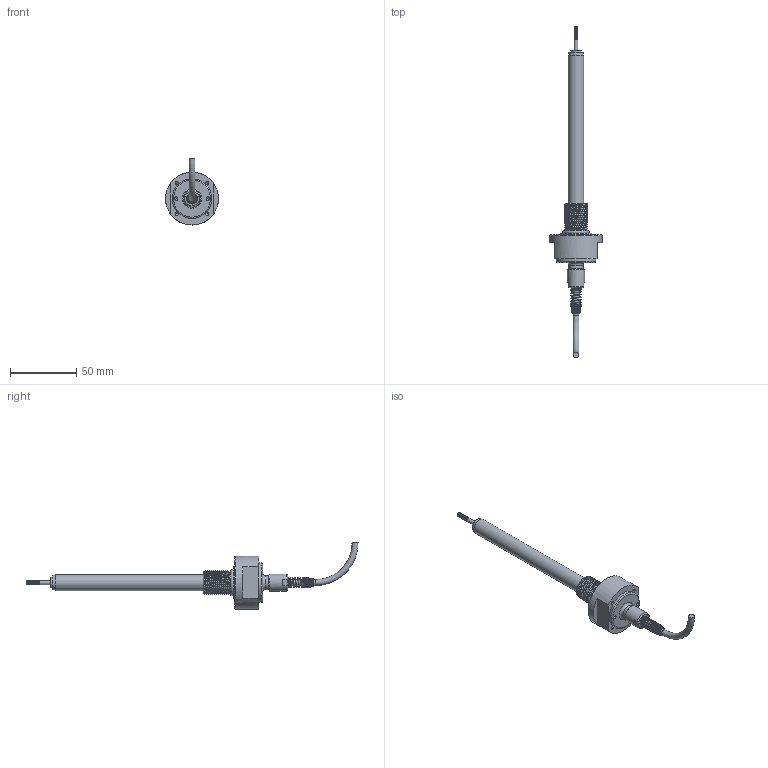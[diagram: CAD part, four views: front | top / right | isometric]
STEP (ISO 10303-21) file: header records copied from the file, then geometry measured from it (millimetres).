
FILE_DESCRIPTION( ( 'STEP AP214' ), '1' );
FILE_NAME( 'N:/Engineering/CAD_Solid/LVDT/HYD/Kunden-3D-Modell/SM25-HYD-18-K.stp', '2011-12-14T13:42:53', ( ' ' ), ( ' ' ), 'XStep 1.0', ' ', ' ' );
FILE_SCHEMA( ( 'CONFIG_CONTROL_DESIGN) ( )' ) );
Length unit declared in the file: metre
Products named in the file (12): 1; 2; 3; 4; 5; 6; 7; 8; 9; 10; 11; 12
Bounding box: 40 x 251.25 x 50 mm (x, y, z)
Volume: 1245.2 mm3; surface area: 17286.7 mm2
Topology: 2 solids, 74 shells, 78 faces, 287 edges, 237 vertices
Faces by surface type: cylinder 23, plane 23, cone 16, bspline 11, torus 5
Full cylindrical faces by diameter (mm): 2.5 x5, 2.6 x2, 3 x1, 4 x1, 4.5 x1, 6 x1, 8 x1, 8.2 x1, 10.6 x1, 11 x1, 12 x1, 13 x1, 15.8 x1, 24 x1, 30 x1, 40 x1
Entity records: 17548 total; most frequent: CARTESIAN_POINT 14842, DIRECTION 446, ORIENTED_EDGE 212, AXIS2_PLACEMENT_3D 209, EDGE_CURVE 209, VERTEX_POINT 209, CIRCLE 131, EDGE_LOOP 130
